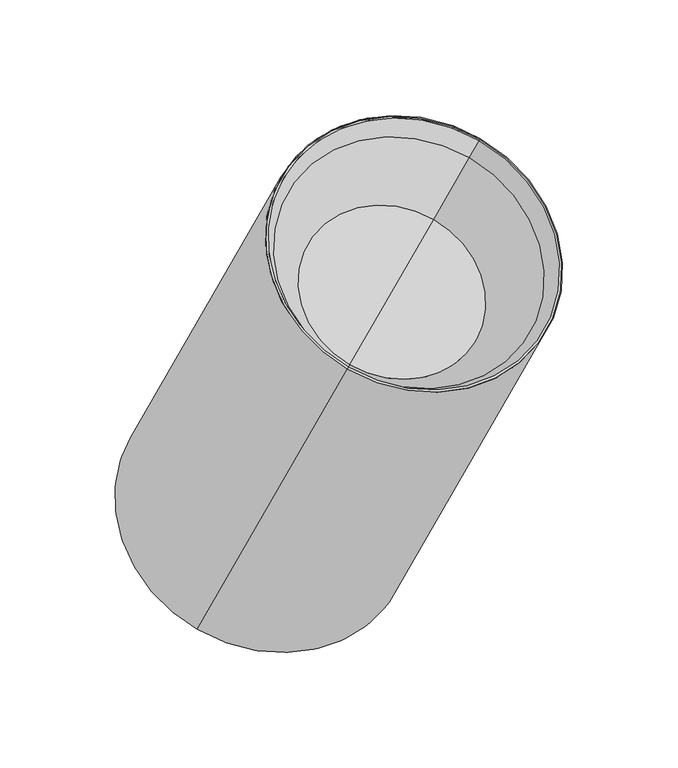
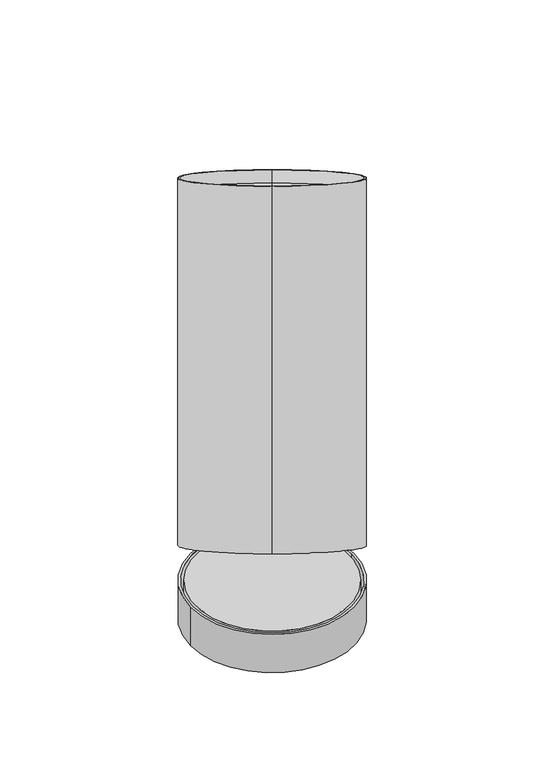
"""IFC4 building model written with IfcOpenShell, lengths in millimetres: light fixture geometry, PIPES C L : 2800 29W-830 62°."""

from ifc_helpers import new_model, si_unit, point, frame, frame_2d, origin, origin_with_axes, origin_2d, place, context, project, spatial, polyline, circle_curve, trimmed, segment, composite_curve, outline, extrude, source, transform, mapped, element, save
from ifc_brep_helpers import plane_surface, cylinder_surface, revolved_surface, advanced_brep


def light_fixture_8b405b74(model_context):
    return source(origin(), model_context, "Body", "SolidModel", [
        advanced_brep(
        [(19.7416698, 50.193575, 92.5262794), (9.7416698, 32.873067, 57.8852633), (17.3202377, 45.9995318, 49.1342867), (14.5702377, 41.2363921, 39.6080073), (15.4427974, 42.7477097, 38.6004622), (28.1927974, 64.8313575, 82.7677578), (33.5980762, 42.193575, 92.5262794), (42.0492038, 56.8313575, 82.7677578), (29.2992038, 34.7477097, 38.6004622), (28.4266442, 33.2363921, 39.6080073), (31.1766442, 37.9995318, 49.1342867), (23.5980762, 24.873067, 57.8852633), (16.669873, 28.873067, 57.8852633), (35.330127, 61.193575, 82.5262794), (29.9894377, 51.9432297, 330.0255888), (87.580127, 151.6932297, 263.5255888), (83.0360009, 143.8225724, 258.0544715), (29.8924374, 51.7752204, 319.4193728), (-35.0105623, -60.6400728, 104.8589838), (-34.1445369, -59.1400728, 103.8589838), (-31.3945369, -54.376933, 113.3852633), (-3.4652177, -6.001933, 81.1352633), (30.5817276, 52.969106, 283.9396195), (67.3281719, 116.6158146, 241.5084805), (48.9549498, 84.7924603, 262.72405)],
        [
            (0, 1),
            (1, 2),
            (2, 3),
            (3, 4),
            (4, 5),
            (5, 0),
            (6, 7),
            (7, 8),
            (8, 9),
            (9, 10),
            (10, 11),
            (11, 6),
            (0, 6),
            (11, 12),
            (12, 1),
            (5, 13, circle_curve(frame((6.5347823, 11.318575, 115.7762794), z_axis=(-0.2500000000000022, -0.43301270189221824, -0.8660254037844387), x_axis=(0.43301270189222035, 0.7499999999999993, -0.5)), 66.5)),
            (13, 7, circle_curve(frame((6.5347823, 11.318575, 115.7762794), z_axis=(-0.2500000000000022, -0.43301270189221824, -0.8660254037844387), x_axis=(0.43301270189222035, 0.7499999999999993, -0.5)), 66.5)),
            (14, 15, circle_curve(frame((58.7847823, 101.8182297, 296.7755888), z_axis=(0.2500000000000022, 0.43301270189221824, 0.8660254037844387), x_axis=(0.43301270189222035, 0.7499999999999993, -0.5)), 66.5)),
            (15, 16),
            (16, 17, circle_curve(frame((56.4642192, 97.7988964, 288.7369221), z_axis=(-0.2500000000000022, -0.43301270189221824, -0.8660254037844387), x_axis=(0.43301270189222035, 0.7499999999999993, -0.5)), 61.3649013)),
            (17, 14),
            (15, 14, circle_curve(frame((58.7847823, 101.8182297, 296.7755888), z_axis=(0.2500000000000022, 0.43301270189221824, 0.8660254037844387), x_axis=(0.43301270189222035, 0.7499999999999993, -0.5)), 66.5)),
            (17, 16, circle_curve(frame((56.4642192, 97.7988964, 288.7369221), z_axis=(-0.2500000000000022, -0.43301270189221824, -0.8660254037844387), x_axis=(0.43301270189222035, 0.7499999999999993, -0.5)), 61.3649013)),
            (14, 18),
            (18, 8, circle_curve(frame((-6.2152177, -10.7650728, 71.6089838), z_axis=(0.2500000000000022, 0.43301270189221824, 0.8660254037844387), x_axis=(0.43301270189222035, 0.7499999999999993, -0.5)), 66.5)),
            (13, 15),
            (4, 18, circle_curve(frame((-6.2152177, -10.7650728, 71.6089838), z_axis=(0.2500000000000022, 0.43301270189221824, 0.8660254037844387), x_axis=(0.43301270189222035, 0.7499999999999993, -0.5)), 66.5)),
            (18, 19),
            (19, 9, circle_curve(frame((-6.2152177, -10.7650728, 71.6089838), z_axis=(0.2500000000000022, 0.43301270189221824, 0.8660254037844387), x_axis=(0.43301270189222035, 0.7499999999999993, -0.5)), 64.5)),
            (3, 19, circle_curve(frame((-6.2152177, -10.7650728, 71.6089838), z_axis=(0.2500000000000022, 0.43301270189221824, 0.8660254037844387), x_axis=(0.43301270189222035, 0.7499999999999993, -0.5)), 64.5)),
            (19, 20),
            (20, 10, circle_curve(frame((-3.4652177, -6.001933, 81.1352633), z_axis=(0.2500000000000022, 0.43301270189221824, 0.8660254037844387), x_axis=(0.43301270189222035, 0.7499999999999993, -0.5)), 64.5)),
            (2, 20, circle_curve(frame((-3.4652177, -6.001933, 81.1352633), z_axis=(0.2500000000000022, 0.43301270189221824, 0.8660254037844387), x_axis=(0.43301270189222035, 0.7499999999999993, -0.5)), 64.5)),
            (20, 21),
            (21, 12),
            (22, 23, circle_curve(frame((48.9549498, 84.7924603, 262.72405), z_axis=(0.2500000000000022, 0.43301270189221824, 0.8660254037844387), x_axis=(0.43301270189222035, 0.7499999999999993, -0.5)), 42.431139)),
            (23, 24),
            (24, 22),
            (23, 22, circle_curve(frame((48.9549498, 84.7924603, 262.72405), z_axis=(0.2500000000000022, 0.43301270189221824, 0.8660254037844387), x_axis=(0.43301270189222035, 0.7499999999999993, -0.5)), 42.431139)),
            (16, 23),
            (22, 17),
        ],
        [
            plane_surface(frame((19.7416698, 50.193575, 92.5262794), z_axis=(0.8660254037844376, -0.5000000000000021, 0.0), x_axis=(0.25000000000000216, 0.43301270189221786, 0.8660254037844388))),
            plane_surface(frame((33.5980762, 42.193575, 92.5262794), z_axis=(-0.8660254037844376, 0.5000000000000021, 0.0), x_axis=(-0.25000000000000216, -0.43301270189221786, -0.8660254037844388))),
            plane_surface(frame((33.5980762, 42.193575, 92.5262794), z_axis=(0.43301270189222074, 0.7499999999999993, -0.4999999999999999), x_axis=(-0.8660254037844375, 0.5000000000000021, 0.0))),
            plane_surface(frame((44.4233938, 60.943575, 80.0262794), z_axis=(-0.2500000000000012, -0.43301270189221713, -0.8660254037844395), x_axis=(-0.8660254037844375, 0.5000000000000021, 0.0))),
            revolved_surface(polyline([(83.0360009, 143.8225724, 258.0544715), (87.580127, 151.6932297, 263.5255888)]), (-7.5783129, -13.126023, 66.8870834), (-0.25000000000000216, -0.43301270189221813, -0.8660254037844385)),
            cylinder_surface(frame((-7.5783129, -13.126023, 66.8870834), z_axis=(-0.25000000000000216, -0.43301270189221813, -0.8660254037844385), x_axis=(0.43301270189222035, 0.7499999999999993, -0.5)), 66.5),
            plane_surface(frame((-6.2152177, -10.7650728, 71.6089838), z_axis=(-0.2500000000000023, -0.433012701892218, -0.8660254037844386), x_axis=(0.43301270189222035, 0.7499999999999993, -0.5))),
            revolved_surface(polyline([(21.714101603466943, 37.60992719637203, 39.358983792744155), (24.464101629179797, 42.37306696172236, 48.88526332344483)]), (-7.5783129, -13.126023, 66.8870834), (-0.25000000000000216, -0.43301270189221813, -0.8660254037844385)),
            plane_surface(frame((-3.4652177, -6.001933, 81.1352633), z_axis=(-0.2500000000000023, -0.433012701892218, -0.8660254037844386), x_axis=(0.43301270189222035, 0.7499999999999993, -0.5))),
            plane_surface(frame((48.9549498, 84.7924603, 262.72405), z_axis=(0.2500000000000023, 0.433012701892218, 0.8660254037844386), x_axis=(0.43301270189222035, 0.7499999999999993, -0.5))),
            revolved_surface(polyline([(67.3281719, 116.6158146, 241.5084805), (83.0360009, 143.8225724, 258.0544715)]), (-7.5783129, -13.126023, 66.8870834), (-0.25000000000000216, -0.43301270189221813, -0.8660254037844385)),
        ],
        [
            (0, [[1, 2, 3, 4, 5, 6]]),
            (1, [[7, 8, 9, 10, 11, 12]]),
            (2, [[13, -12, 14, 15, -1]]),
            (3, [[-13, -6, 16, 17, -7]]),
            (4, [[18, 19, 20, 21]]),
            (4, [[-19, 22, -21, 23]]),
            (5, [[-18, 24, 25, -8, -17, 26]]),
            (5, [[-22, -26, -16, -5, 27, -24]]),
            (6, [[28, 29, -9, -25]]),
            (6, [[-28, -27, -4, 30]]),
            (7, [[31, 32, -10, -29]]),
            (7, [[-31, -30, -3, 33]]),
            (8, [[34, 35, -14, -11, -32]]),
            (8, [[-34, -33, -2, -15, -35]]),
            (9, [[36, 37, 38]]),
            (9, [[-37, 39, -38]]),
            (10, [[-20, 40, -36, 41]]),
            (10, [[-23, -41, -39, -40]]),
        ],
    ),
        advanced_brep(
        [(7.4916698, 28.9759526, 50.0910347), (6.9916698, 28.1099272, 48.3589838), (13.6944795, 39.7195344, 40.6192458), (14.1944795, 40.5855598, 42.3512966), (20.8480762, 20.1099272, 48.3589838), (21.3480762, 20.9759526, 50.0910347), (28.050886, 32.5855598, 42.3512966), (27.550886, 31.7195344, 40.6192458), (14.419873, 24.9759526, 50.0910347), (13.919873, 24.1099272, 48.3589838), (-5.7152177, -9.8990474, 73.3410347), (-32.775759, -56.7692799, 104.5878564), (-33.275759, -57.6353053, 102.8558055), (-6.2152177, -10.7650728, 71.6089838)],
        [
            (0, 1),
            (1, 2),
            (2, 3),
            (3, 0),
            (4, 5),
            (5, 6),
            (6, 7),
            (7, 4),
            (0, 8),
            (8, 5),
            (4, 9),
            (9, 1),
            (10, 11),
            (11, 6, circle_curve(frame((-5.7152177, -9.8990474, 73.3410347), z_axis=(0.25000000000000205, 0.43301270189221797, 0.8660254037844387), x_axis=(0.43301270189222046, 0.7499999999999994, -0.49999999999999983)), 62.4936434)),
            (8, 10),
            (3, 11, circle_curve(frame((-5.7152177, -9.8990474, 73.3410347), z_axis=(0.25000000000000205, 0.43301270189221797, 0.8660254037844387), x_axis=(0.43301270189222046, 0.7499999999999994, -0.49999999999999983)), 62.4936434)),
            (11, 12),
            (12, 7, circle_curve(frame((-6.2152177, -10.7650728, 71.6089838), z_axis=(0.25000000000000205, 0.43301270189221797, 0.8660254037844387), x_axis=(0.43301270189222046, 0.7499999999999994, -0.49999999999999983)), 62.4936434)),
            (2, 12, circle_curve(frame((-6.2152177, -10.7650728, 71.6089838), z_axis=(0.25000000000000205, 0.43301270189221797, 0.8660254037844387), x_axis=(0.43301270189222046, 0.7499999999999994, -0.49999999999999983)), 62.4936434)),
            (12, 13),
            (13, 9),
        ],
        [
            plane_surface(frame((19.7416698, 50.193575, 92.5262794), z_axis=(0.8660254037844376, -0.5000000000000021, 0.0), x_axis=(0.25000000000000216, 0.43301270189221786, 0.8660254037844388))),
            plane_surface(frame((33.5980762, 42.193575, 92.5262794), z_axis=(-0.8660254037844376, 0.5000000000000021, 0.0), x_axis=(-0.25000000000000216, -0.43301270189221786, -0.8660254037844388))),
            plane_surface(frame((33.5980762, 42.193575, 92.5262794), z_axis=(0.43301270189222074, 0.7499999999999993, -0.4999999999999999), x_axis=(-0.8660254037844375, 0.5000000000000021, 0.0))),
            plane_surface(frame((-5.7152177, -9.8990474, 73.3410347), z_axis=(0.25000000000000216, 0.43301270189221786, 0.8660254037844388), x_axis=(0.43301270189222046, 0.7499999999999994, -0.49999999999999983))),
            cylinder_surface(frame((-7.5783129, -13.126023, 66.8870834), z_axis=(-0.25000000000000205, -0.43301270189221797, -0.8660254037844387), x_axis=(0.43301270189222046, 0.7499999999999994, -0.49999999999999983)), 62.4936434),
            plane_surface(frame((-6.2152177, -10.7650728, 71.6089838), z_axis=(-0.25000000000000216, -0.43301270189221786, -0.8660254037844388), x_axis=(0.43301270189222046, 0.7499999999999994, -0.49999999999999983))),
        ],
        [
            (0, [[1, 2, 3, 4]]),
            (1, [[5, 6, 7, 8]]),
            (2, [[-1, 9, 10, -5, 11, 12]]),
            (3, [[13, 14, -6, -10, 15]]),
            (3, [[-13, -15, -9, -4, 16]]),
            (4, [[17, 18, -7, -14]]),
            (4, [[-17, -16, -3, 19]]),
            (5, [[20, 21, -11, -8, -18]]),
            (5, [[-20, -19, -2, -12, -21]]),
        ],
    ),
        advanced_brep(
        [(29.9894377, 51.9432297, 330.0255888), (87.580127, 151.6932297, 263.5255888), (87.0852693, 150.836111, 264.0970013), (30.4842954, 52.8003485, 329.4541764), (31.0706396, 53.8159264, 284.5297732), (67.33926, 116.6350196, 242.6503777), (49.2049498, 85.225473, 263.5900754), (30.3926151, 52.6415535, 319.4296502), (82.7903623, 143.3971139, 258.9259432), (29.8924374, 51.7752204, 319.4193728), (83.0360009, 143.8225724, 258.0544715), (30.5817276, 52.969106, 283.9396195), (67.3281719, 116.6158146, 241.5084805), (48.9549498, 84.7924603, 262.72405)],
        [
            (0, 1, circle_curve(frame((58.7847823, 101.8182297, 296.7755888), z_axis=(0.25000000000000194, 0.43301270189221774, 0.866025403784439), x_axis=(0.4330127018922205, 0.7499999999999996, -0.49999999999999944)), 66.5)),
            (1, 2),
            (2, 3, circle_curve(frame((58.7847823, 101.8182297, 296.7755888), z_axis=(-0.25000000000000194, -0.43301270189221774, -0.866025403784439), x_axis=(0.4330127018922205, 0.7499999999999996, -0.49999999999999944)), 65.357175)),
            (3, 0),
            (1, 0, circle_curve(frame((58.7847823, 101.8182297, 296.7755888), z_axis=(0.25000000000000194, 0.43301270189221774, 0.866025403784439), x_axis=(0.4330127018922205, 0.7499999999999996, -0.49999999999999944)), 66.5)),
            (3, 2, circle_curve(frame((58.7847823, 101.8182297, 296.7755888), z_axis=(-0.25000000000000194, -0.43301270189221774, -0.866025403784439), x_axis=(0.4330127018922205, 0.7499999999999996, -0.49999999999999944)), 65.357175)),
            (4, 5, circle_curve(frame((49.2049498, 85.225473, 263.5900754), z_axis=(0.25000000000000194, 0.43301270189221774, 0.866025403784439), x_axis=(0.4330127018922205, 0.7499999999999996, -0.49999999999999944)), 41.8793955)),
            (5, 6),
            (6, 4),
            (5, 4, circle_curve(frame((49.2049498, 85.225473, 263.5900754), z_axis=(0.25000000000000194, 0.43301270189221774, 0.866025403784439), x_axis=(0.4330127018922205, 0.7499999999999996, -0.49999999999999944)), 41.8793955)),
            (7, 8, circle_curve(frame((56.5914887, 98.0193337, 289.1777967), z_axis=(0.25000000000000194, 0.43301270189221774, 0.866025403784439), x_axis=(0.4330127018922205, 0.7499999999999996, -0.49999999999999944)), 60.5037069)),
            (8, 5),
            (4, 7),
            (8, 7, circle_curve(frame((56.5914887, 98.0193337, 289.1777967), z_axis=(0.25000000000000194, 0.43301270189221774, 0.866025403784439), x_axis=(0.4330127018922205, 0.7499999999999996, -0.49999999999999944)), 60.5037069)),
            (9, 10, circle_curve(frame((56.4642192, 97.7988964, 288.7369221), z_axis=(0.25000000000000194, 0.43301270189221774, 0.866025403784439), x_axis=(0.4330127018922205, 0.7499999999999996, -0.49999999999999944)), 61.3649013)),
            (10, 1),
            (0, 9),
            (10, 9, circle_curve(frame((56.4642192, 97.7988964, 288.7369221), z_axis=(0.25000000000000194, 0.43301270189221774, 0.866025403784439), x_axis=(0.4330127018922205, 0.7499999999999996, -0.49999999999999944)), 61.3649013)),
            (11, 12, circle_curve(frame((48.9549498, 84.7924603, 262.72405), z_axis=(0.25000000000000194, 0.43301270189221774, 0.866025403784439), x_axis=(0.4330127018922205, 0.7499999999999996, -0.49999999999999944)), 42.431139)),
            (12, 10),
            (9, 11),
            (12, 11, circle_curve(frame((48.9549498, 84.7924603, 262.72405), z_axis=(0.25000000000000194, 0.43301270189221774, 0.866025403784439), x_axis=(0.4330127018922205, 0.7499999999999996, -0.49999999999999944)), 42.431139)),
            (13, 12),
            (11, 13),
            (2, 8),
            (7, 3),
        ],
        [
            plane_surface(frame((58.7847823, 101.8182297, 296.7755888), z_axis=(0.250000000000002, 0.4330127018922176, 0.866025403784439), x_axis=(0.4330127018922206, 0.7499999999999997, -0.4999999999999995))),
            plane_surface(frame((49.2049498, 85.225473, 263.5900754), z_axis=(0.250000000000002, 0.4330127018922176, 0.866025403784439), x_axis=(0.4330127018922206, 0.7499999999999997, -0.4999999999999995))),
            revolved_surface(polyline([(67.33926, 116.6350196, 242.6503777), (82.7903623, 143.3971139, 258.9259432)]), (-7.5783129, -13.126023, 66.8870834), (-0.2500000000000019, -0.43301270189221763, -0.8660254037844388)),
            revolved_surface(polyline([(87.580127, 151.6932297, 263.5255888), (83.0360009, 143.8225724, 258.0544715)]), (-7.5783129, -13.126023, 66.8870834), (-0.2500000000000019, -0.43301270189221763, -0.8660254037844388)),
            revolved_surface(polyline([(83.0360009, 143.8225724, 258.0544715), (67.3281719, 116.6158146, 241.5084805)]), (-7.5783129, -13.126023, 66.8870834), (-0.2500000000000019, -0.43301270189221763, -0.8660254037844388)),
            plane_surface(frame((48.9549498, 84.7924603, 262.72405), z_axis=(-0.250000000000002, -0.4330127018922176, -0.866025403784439), x_axis=(0.4330127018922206, 0.7499999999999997, -0.4999999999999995))),
            revolved_surface(polyline([(82.7903623, 143.3971139, 258.9259432), (87.0852693, 150.836111, 264.0970013)]), (-7.5783129, -13.126023, 66.8870834), (-0.2500000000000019, -0.43301270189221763, -0.8660254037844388)),
        ],
        [
            (0, [[1, 2, 3, 4]]),
            (0, [[5, -4, 6, -2]]),
            (1, [[7, 8, 9]]),
            (1, [[10, -9, -8]]),
            (2, [[11, 12, -7, 13]]),
            (2, [[14, -13, -10, -12]]),
            (3, [[15, 16, -1, 17]]),
            (3, [[18, -17, -5, -16]]),
            (4, [[19, 20, -15, 21]]),
            (4, [[22, -21, -18, -20]]),
            (5, [[23, -19, 24]]),
            (5, [[-24, -22, -23]]),
            (6, [[-3, 25, -11, 26]]),
            (6, [[-6, -26, -14, -25]]),
        ],
    ),
        extrude(outline(composite_curve([segment(trimmed(circle_curve(origin_2d(), 62.5), [point((54.1265877, -31.25))], [point((-54.1265877, 31.25))], False, "CARTESIAN"), True, "CONTINUOUS"), segment(trimmed(circle_curve(origin_2d(), 62.5), [point((-54.1265877, 31.25))], [point((54.1265877, -31.25))], False, "CARTESIAN"), True, "CONTINUOUS")], self_intersect=False)), origin_with_axes(), (0.0, 0.0, 1.0), 33.0),
        extrude(outline(composite_curve([segment(polyline([(0.2983896, -17.0947277), (-46.2490169, -17.0947277), (-46.2490169, 1.8978255), (7.5438399, 1.8978255), (7.5438399, -0.6021745), (9.7509831, -0.6021745), (8.4667604, -9.7398936)]), True, "CONTINUOUS"), segment(trimmed(circle_curve(frame_2d((0.0, -8.5499681)), 8.5499681), [point((8.4667604, -9.7398936))], [point((0.2983896, -17.0947277))], False, "CARTESIAN"), True, "CONTINUOUS")], self_intersect=False)), frame((37.863265, 51.5810988, 79.2490169), z_axis=(-0.8660254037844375, 0.5000000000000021, 0.0), x_axis=(0.0, 0.0, 1.0)), (0.0, 0.0, 1.0), 14.0),
        extrude(outline(composite_curve([segment(trimmed(circle_curve(origin_2d(), 66.5), [point((-66.5, 0.0))], [point((66.5, 0.0))], False, "CARTESIAN"), True, "CONTINUOUS"), segment(trimmed(circle_curve(origin_2d(), 66.5), [point((66.5, 0.0))], [point((-66.5, 0.0))], False, "CARTESIAN"), True, "CONTINUOUS")], self_intersect=False), holes=[composite_curve([segment(trimmed(circle_curve(origin_2d(), 64.5), [point((-64.5, 0.0))], [point((64.5, 0.0))], True, "CARTESIAN"), True, "CONTINUOUS"), segment(trimmed(circle_curve(origin_2d(), 64.5), [point((64.5, 0.0))], [point((-64.5, 0.0))], True, "CARTESIAN"), True, "CONTINUOUS")], self_intersect=False)]), origin_with_axes(), (0.0, 0.0, 1.0), 33.0),
    ])


if __name__ == "__main__":
    model = new_model("IFC4")
    model_context = context("Model", 3, world=origin())
    ifc_project = project(units=[si_unit("LENGTHUNIT", "METRE", prefix="MILLI")], contexts=[model_context])
    site = spatial("IfcSite", under=ifc_project)
    building = spatial("IfcBuilding", under=site)
    placement = place(None, origin())
    light_fixture_shape = light_fixture_8b405b74(model_context)
    element("IfcLightFixture", 1, ObjectType="PIPES C L : 2800 29W-830 62°", at=placement, inside=building, context=model_context, shape_type="MappedRepresentation", body=[
        mapped(light_fixture_shape, transform((0.0, 0.0, 0.0), x_axis=(1.0, 0.0, 0.0), y_axis=(0.0, 1.0, 0.0), z_axis=(0.0, 0.0, 1.0))),
    ])
    save(model, "model.ifc")
